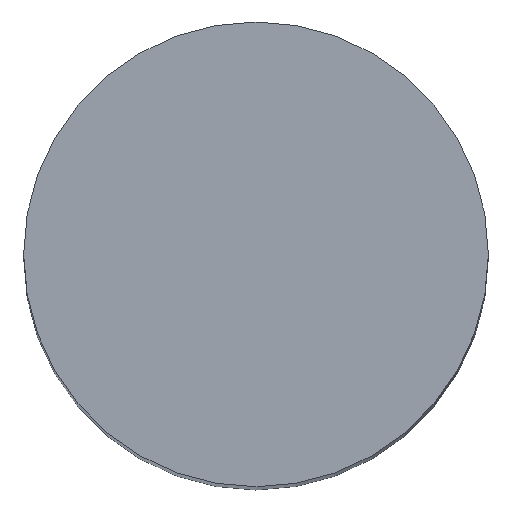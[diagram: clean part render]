
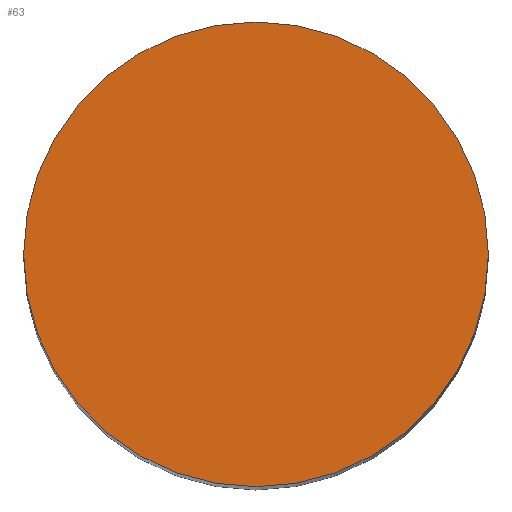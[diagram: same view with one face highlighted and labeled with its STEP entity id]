
A CAD part, top view. The second image highlights one B-rep face of the part: STEP entity #63.
In plain terms, the highlighted planar face has unit normal (0, 0, 1).
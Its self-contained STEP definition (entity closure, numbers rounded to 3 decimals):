
#26=CARTESIAN_POINT('',(0.0,0.0,2.0));
#27=DIRECTION('',(0.0,0.0,1.0));
#28=DIRECTION('',(1.0,0.0,0.0));
#29=AXIS2_PLACEMENT_3D('',#26,#27,#28);
#30=CIRCLE('',#29,0.25);
#31=CARTESIAN_POINT('',(0.25,0.0,2.0));
#32=VERTEX_POINT('',#31);
#33=EDGE_CURVE('',#32,#32,#30,.T.);
#55=CARTESIAN_POINT('',(0.0,0.0,2.0));
#56=DIRECTION('',(0.0,0.0,1.0));
#57=DIRECTION('',(1.0,0.0,0.0));
#58=AXIS2_PLACEMENT_3D('',#55,#56,#57);
#59=PLANE('',#58);
#60=ORIENTED_EDGE('',*,*,#33,.T.);
#61=EDGE_LOOP('',(#60));
#62=FACE_OUTER_BOUND('',#61,.T.);
#63=ADVANCED_FACE('',(#62),#59,.T.);
